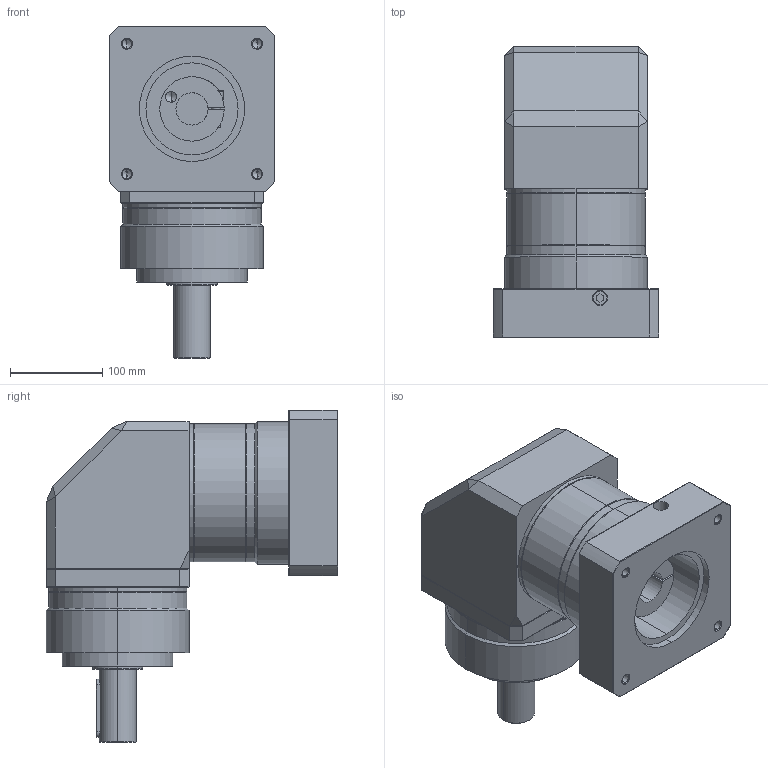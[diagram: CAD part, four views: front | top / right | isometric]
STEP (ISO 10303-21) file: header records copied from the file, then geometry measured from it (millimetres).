
FILE_DESCRIPTION (( 'STEP AP214' ), '1' );
FILE_NAME ('GER155.STEP', '2019-05-16T12:25:46', ( '个人用户' ), ( '微软中国' ), 'SwSTEP 2.0', 'SolidWorks 2017', '' );
FILE_SCHEMA (( 'AUTOMOTIVE_DESIGN' ));
Length unit declared in the file: millimetre
Products named in the file (1): GER155
Bounding box: 180 x 316.5 x 360.5 mm (x, y, z)
Volume: 8385820.8 mm3; surface area: 377935.2 mm2
Topology: 1 solids, 1 shells, 237 faces, 531 edges, 300 vertices
Faces by surface type: plane 98, cylinder 68, cone 61, torus 10
Entity records: 6809 total; most frequent: CARTESIAN_POINT 1350, DIRECTION 1151, ORIENTED_EDGE 1022, EDGE_CURVE 511, AXIS2_PLACEMENT_3D 427, VERTEX_POINT 300, LINE 297, VECTOR 297
